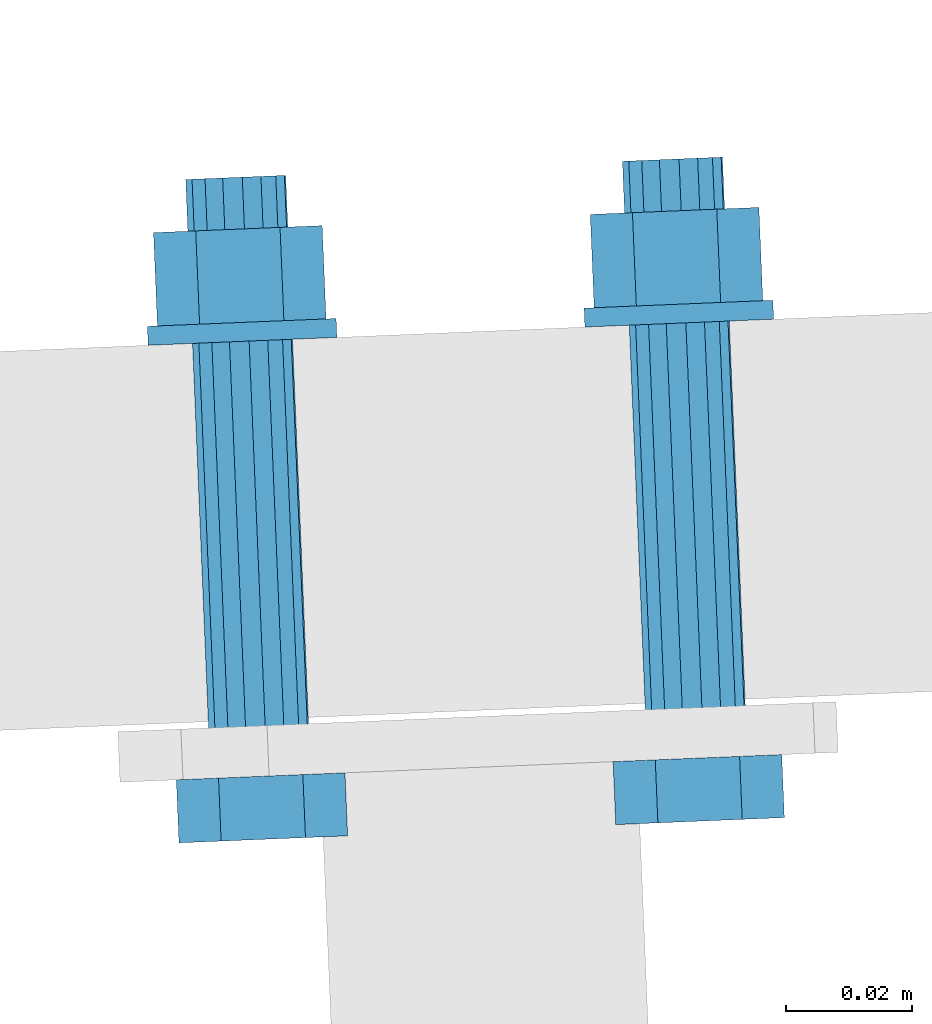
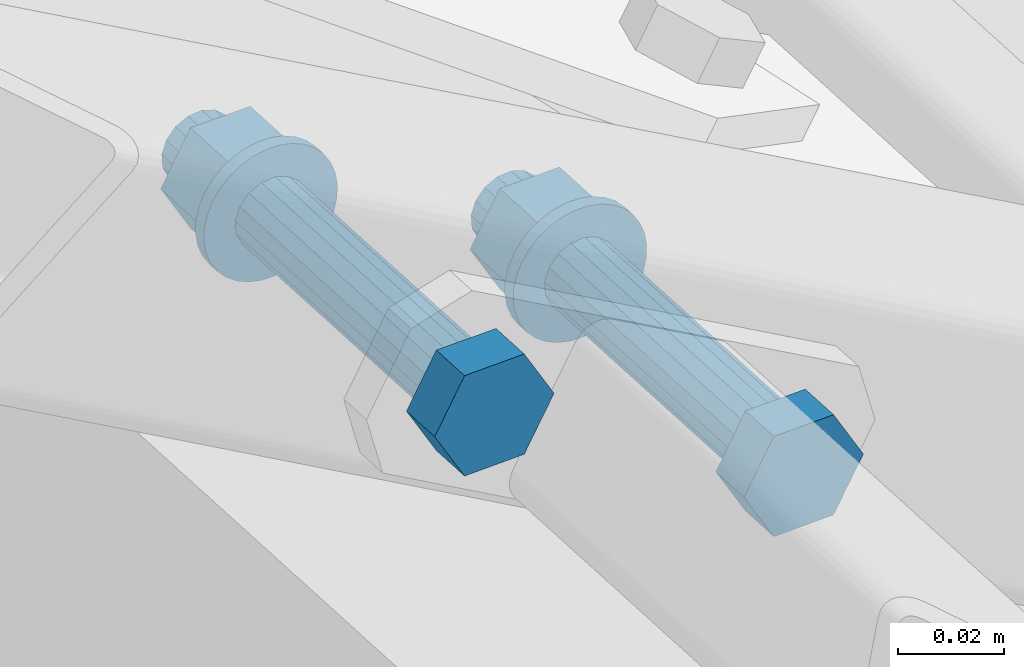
# One storey, part 111 of 288: 1 mechanical fastener.
"""IFC2X3 building model written with IfcOpenShell, lengths in millimetres."""

from ifc_helpers import new_model, entity, si_unit, converted_unit, origin_with_axes, place, context, project, spatial, faceted_brep, element, save


model = new_model("IFC2X3")

# Units and contexts
model_context = context("Model", 3, precision=1e-09, world=origin_with_axes())
ifc_project = project(units=[si_unit("LENGTHUNIT", "METRE", prefix="MILLI"), si_unit("AREAUNIT", "SQUARE_METRE"), si_unit("VOLUMEUNIT", "CUBIC_METRE"), converted_unit("PLANEANGLEUNIT", "DEGREE", entity("IfcPlaneAngleMeasure", 0.01745329), si_unit("PLANEANGLEUNIT", "RADIAN"), dimensions=[0, 0, 0, 0, 0, 0, 0])], contexts=[model_context])

# Site, building, storey
site_placement = place(None, origin_with_axes())
site = spatial("IfcSite", under=ifc_project, at=site_placement, Name="Remont ?wietlik?w nad MC w NCPP w Opolu", CompositionType="ELEMENT")
building_placement = place(site_placement, origin_with_axes())
building = spatial("IfcBuilding", under=site, at=building_placement, Name="Konstrukcja 1", CompositionType="ELEMENT")
storey_placement = place(building_placement, origin_with_axes())
storey = spatial("IfcBuildingStorey", under=building, at=storey_placement, Name="Default Storey", CompositionType="ELEMENT", Elevation=0.0)

# Mechanical fastener
mechanical_fastener_placement = place(None, origin_with_axes())
element("IfcMechanicalFastener", 1, at=mechanical_fastener_placement, inside=storey, ObjectType="-", NominalDiameter=16.0, NominalLength=95.0, context=model_context, shape_type="Brep", body=[
    faceted_brep([(1444.939910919, 3992.884096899, 257.007800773), (1444.523194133, 4002.875410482, 257.007799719), (1451.204889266, 4003.154088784, 245.424712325), (1451.621606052, 3993.162775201, 245.42471338), (1464.568271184, 4003.711447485, 245.42471709), (1464.984987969, 3993.720133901, 245.424718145), (1471.249957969, 4003.990127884, 257.007809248), (1471.666674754, 3993.9988143, 257.007810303), (1464.568262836, 4003.711449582, 268.590896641), (1464.984979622, 3993.720135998, 268.590897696), (1451.204880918, 4003.154090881, 268.590891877), (1451.621597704, 3993.162777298, 268.590892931)], [[[0, 1, 2, 3]], [[3, 2, 4, 5]], [[5, 4, 6, 7]], [[7, 6, 8, 9]], [[9, 8, 10, 11]], [[11, 10, 1, 0]], [[3, 5, 7, 9, 11, 0]], [[2, 1, 10, 8, 6, 4]]]),
    faceted_brep([(1514.161776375, 3995.771191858, 217.007825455), (1513.74505959, 4005.762505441, 217.007824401), (1520.426754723, 4006.041183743, 205.424737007), (1520.843471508, 3996.049870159, 205.424738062), (1533.79013664, 4006.598542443, 205.424741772), (1534.206853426, 3996.60722886, 205.424742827), (1540.471823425, 4006.877222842, 217.00783393), (1540.888540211, 3996.885909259, 217.007834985), (1533.790128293, 4006.59854454, 228.590921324), (1534.206845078, 3996.607230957, 228.590922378), (1520.426746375, 4006.04118584, 228.590916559), (1520.84346316, 3996.049872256, 228.590917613)], [[[0, 1, 2, 3]], [[3, 2, 4, 5]], [[5, 4, 6, 7]], [[7, 6, 8, 9]], [[9, 8, 10, 11]], [[11, 10, 1, 0]], [[3, 5, 7, 9, 11, 0]], [[2, 1, 10, 8, 6, 4]]]),
    faceted_brep([(1461.933407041, 4072.661775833, 253.007799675), (1464.808762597, 4003.721478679, 253.007806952), (1462.752439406, 4003.635713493, 250.660979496), (1459.87708385, 4072.576010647, 250.660972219), (1459.955332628, 4003.519051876, 249.280398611), (1457.079977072, 4072.45934903, 249.280391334), (1456.843276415, 4003.389254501, 249.07624522), (1453.967920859, 4072.329551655, 249.076237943), (1453.890053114, 4003.266081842, 250.079599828), (1451.014697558, 4072.206378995, 250.079592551), (1451.545264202, 4003.168285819, 252.13771079), (1448.669908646, 4072.108582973, 252.137703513), (1450.165882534, 4003.110754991, 254.93724937), (1447.290526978, 4072.051052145, 254.937242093), (1449.961906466, 4003.102247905, 258.052011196), (1447.08655091, 4072.042545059, 258.052003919), (1450.964389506, 4003.144059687, 261.007802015), (1448.08903395, 4072.084356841, 261.007794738), (1453.020712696, 4003.229824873, 263.354629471), (1450.14535714, 4072.170122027, 263.354622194), (1455.817819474, 4003.34648649, 264.735210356), (1452.942463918, 4072.286783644, 264.735203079), (1458.929875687, 4003.476283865, 264.939363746), (1456.054520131, 4072.416581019, 264.939356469), (1461.883098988, 4003.599456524, 263.936009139), (1459.007743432, 4072.539753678, 263.936001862), (1464.2278879, 4003.697252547, 261.877898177), (1461.352532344, 4072.637549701, 261.8778909), (1465.607269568, 4003.754783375, 259.078359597), (1462.731914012, 4072.695080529, 259.07835232), (1465.811245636, 4003.763290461, 255.963597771), (1462.93589008, 4072.703587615, 255.963590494)], [[[0, 1, 2, 3]], [[3, 2, 4, 5]], [[5, 4, 6, 7]], [[7, 6, 8, 9]], [[9, 8, 10, 11]], [[11, 10, 12, 13]], [[13, 12, 14, 15]], [[15, 14, 16, 17]], [[17, 16, 18, 19]], [[19, 18, 20, 21]], [[21, 20, 22, 23]], [[23, 22, 24, 25]], [[25, 24, 26, 27]], [[27, 26, 28, 29]], [[29, 28, 30, 31]], [[31, 30, 1, 0]], [[2, 1, 30, 28, 26, 24, 22, 20, 18, 16, 14, 12, 10, 8, 6, 4]], [[31, 0, 3, 5, 7, 9, 11, 13, 15, 17, 19, 21, 23, 25, 27, 29]]]),
    faceted_brep([(1531.155272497, 4075.548870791, 213.007824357), (1534.030628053, 4006.608573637, 213.007831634), (1531.974304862, 4006.522808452, 210.661004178), (1529.098949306, 4075.463105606, 210.660996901), (1529.177198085, 4006.406146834, 209.280423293), (1526.301842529, 4075.346443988, 209.280416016), (1526.065141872, 4006.276349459, 209.076269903), (1523.189786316, 4075.216646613, 209.076262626), (1523.111918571, 4006.1531768, 210.07962451), (1520.236563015, 4075.093473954, 210.079617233), (1520.767129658, 4006.055380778, 212.137735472), (1517.891774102, 4074.995677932, 212.137728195), (1519.387747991, 4005.99784995, 214.937274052), (1516.512392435, 4074.938147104, 214.937266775), (1519.183771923, 4005.989342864, 218.052035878), (1516.308416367, 4074.929640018, 218.052028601), (1520.186254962, 4006.031154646, 221.007826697), (1517.310899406, 4074.9714518, 221.00781942), (1522.242578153, 4006.116919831, 223.354654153), (1519.367222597, 4075.057216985, 223.354646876), (1525.03968493, 4006.233581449, 224.735235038), (1522.164329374, 4075.173878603, 224.735227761), (1528.151741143, 4006.363378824, 224.939388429), (1525.276385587, 4075.303675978, 224.939381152), (1531.104964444, 4006.486551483, 223.936033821), (1528.229608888, 4075.426848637, 223.936026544), (1533.449753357, 4006.584347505, 221.877922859), (1530.574397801, 4075.524644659, 221.877915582), (1534.829135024, 4006.641878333, 219.078384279), (1531.953779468, 4075.582175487, 219.078377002), (1535.033111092, 4006.65038542, 215.963622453), (1532.157755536, 4075.590682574, 215.963615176)], [[[0, 1, 2, 3]], [[3, 2, 4, 5]], [[5, 4, 6, 7]], [[7, 6, 8, 9]], [[9, 8, 10, 11]], [[11, 10, 12, 13]], [[13, 12, 14, 15]], [[15, 14, 16, 17]], [[17, 16, 18, 19]], [[19, 18, 20, 21]], [[21, 20, 22, 23]], [[23, 22, 24, 25]], [[25, 24, 26, 27]], [[27, 26, 28, 29]], [[29, 28, 30, 31]], [[31, 30, 1, 0]], [[2, 1, 30, 28, 26, 24, 22, 20, 18, 16, 14, 12, 10, 8, 6, 4]], [[31, 0, 3, 5, 7, 9, 11, 13, 15, 17, 19, 21, 23, 25, 27, 29]]]),
    faceted_brep([(1467.865305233, 4075.911790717, 249.507801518), (1467.990320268, 4072.914396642, 249.507801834), (1466.27902498, 4072.843021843, 247.117613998), (1466.154009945, 4075.840415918, 247.117613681), (1464.134714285, 4072.753586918, 245.107500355), (1464.00969925, 4075.750980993, 245.107500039), (1461.63979284, 4072.649528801, 243.554708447), (1461.514777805, 4075.646922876, 243.554708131), (1458.890139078, 4072.534846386, 242.518911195), (1458.765124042, 4075.532240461, 242.518910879), (1455.991420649, 4072.413946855, 242.039913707), (1455.866405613, 4075.41134093, 242.039913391), (1453.055033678, 4072.291476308, 242.136123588), (1452.930018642, 4075.288870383, 242.136123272), (1450.19382187, 4072.17214122, 242.803843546), (1450.068806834, 4075.169535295, 242.80384323), (1447.517739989, 4072.060527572, 244.017413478), (1447.392724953, 4075.057921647, 244.017413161), (1445.129628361, 4071.960924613, 245.730196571), (1445.004613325, 4074.958318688, 245.730196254), (1443.121260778, 4071.87716003, 247.876371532), (1442.996245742, 4074.874554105, 247.876371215), (1441.569817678, 4071.812452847, 250.37346206), (1441.444802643, 4074.809846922, 250.373461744), (1440.534920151, 4071.769289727, 253.125506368), (1440.409905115, 4074.766683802, 253.125506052), (1440.056338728, 4071.749329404, 256.026744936), (1439.931323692, 4074.746723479, 256.026744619), (1440.152465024, 4071.753338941, 258.965684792), (1440.027449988, 4074.750733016, 258.965684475), (1440.81960496, 4071.781164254, 261.829384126), (1440.694589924, 4074.778558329, 261.829383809), (1442.032120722, 4071.831736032, 264.507792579), (1441.907105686, 4074.829130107, 264.507792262), (1443.74341601, 4071.90311083, 266.897980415), (1443.618400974, 4074.900504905, 266.897980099), (1445.887726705, 4071.992545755, 268.908094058), (1445.762711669, 4074.98993983, 268.908093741), (1448.38264815, 4072.096603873, 270.460885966), (1448.257633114, 4075.093997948, 270.46088565), (1451.132301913, 4072.211286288, 271.496683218), (1451.007286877, 4075.208680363, 271.496682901), (1454.031020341, 4072.332185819, 271.975680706), (1453.906005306, 4075.329579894, 271.975680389), (1456.967407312, 4072.454656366, 271.879470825), (1456.842392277, 4075.452050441, 271.879470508), (1459.828619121, 4072.573991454, 271.211750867), (1459.703604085, 4075.571385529, 271.21175055), (1462.504701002, 4072.685605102, 269.998180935), (1462.379685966, 4075.682999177, 269.998180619), (1464.892812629, 4072.785208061, 268.285397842), (1464.767797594, 4075.782602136, 268.285397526), (1466.901180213, 4072.868972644, 266.139222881), (1466.776165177, 4075.866366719, 266.139222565), (1468.452623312, 4072.933679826, 263.642132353), (1468.327608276, 4075.931073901, 263.642132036), (1469.487520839, 4072.976842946, 260.890088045), (1469.362505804, 4075.974237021, 260.890087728), (1469.966102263, 4072.99680327, 257.988849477), (1469.841087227, 4075.994197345, 257.988849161), (1469.869975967, 4072.992793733, 255.049909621), (1469.744960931, 4075.990187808, 255.049909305), (1469.202836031, 4072.96496842, 252.186210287), (1469.077820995, 4075.962362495, 252.186209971)], [[[0, 1, 2, 3]], [[3, 2, 4, 5]], [[5, 4, 6, 7]], [[7, 6, 8, 9]], [[9, 8, 10, 11]], [[11, 10, 12, 13]], [[13, 12, 14, 15]], [[15, 14, 16, 17]], [[17, 16, 18, 19]], [[19, 18, 20, 21]], [[21, 20, 22, 23]], [[23, 22, 24, 25]], [[25, 24, 26, 27]], [[27, 26, 28, 29]], [[29, 28, 30, 31]], [[31, 30, 32, 33]], [[33, 32, 34, 35]], [[35, 34, 36, 37]], [[37, 36, 38, 39]], [[39, 38, 40, 41]], [[41, 40, 42, 43]], [[43, 42, 44, 45]], [[45, 44, 46, 47]], [[47, 46, 48, 49]], [[49, 48, 50, 51]], [[51, 50, 52, 53]], [[53, 52, 54, 55]], [[55, 54, 56, 57]], [[57, 56, 58, 59]], [[59, 58, 60, 61]], [[61, 60, 62, 63]], [[63, 62, 1, 0]], [[2, 1, 62, 60, 58, 56, 54, 52, 50, 48, 46, 44, 42, 40, 38, 36, 34, 32, 30, 28, 26, 24, 22, 20, 18, 16, 14, 12, 10, 8, 6, 4]], [[63, 0, 3, 5, 7, 9, 11, 13, 15, 17, 19, 21, 23, 25, 27, 29, 31, 33, 35, 37, 39, 41, 43, 45, 47, 49, 51, 53, 55, 57, 59, 61]]]),
    faceted_brep([(1537.087170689, 4078.798885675, 209.5078262), (1537.212185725, 4075.8014916, 209.507826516), (1535.500890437, 4075.730116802, 207.11763868), (1535.375875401, 4078.727510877, 207.117638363), (1533.356579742, 4075.640681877, 205.107525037), (1533.231564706, 4078.638075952, 205.107524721), (1530.861658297, 4075.53662376, 203.554733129), (1530.736643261, 4078.534017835, 203.554732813), (1528.112004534, 4075.421941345, 202.518935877), (1527.986989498, 4078.41933542, 202.518935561), (1525.213286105, 4075.301041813, 202.03993839), (1525.08827107, 4078.298435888, 202.039938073), (1522.276899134, 4075.178571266, 202.13614827), (1522.151884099, 4078.175965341, 202.136147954), (1519.415687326, 4075.059236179, 202.803868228), (1519.29067229, 4078.056630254, 202.803867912), (1516.739605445, 4074.94762253, 204.01743816), (1516.614590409, 4077.945016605, 204.017437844), (1514.351493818, 4074.848019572, 205.730221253), (1514.226478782, 4077.845413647, 205.730220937), (1512.343126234, 4074.764254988, 207.876396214), (1512.218111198, 4077.761649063, 207.876395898), (1510.791683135, 4074.699547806, 210.373486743), (1510.666668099, 4077.696941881, 210.373486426), (1509.756785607, 4074.656384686, 213.12553105), (1509.631770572, 4077.653778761, 213.125530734), (1509.278204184, 4074.636424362, 216.026769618), (1509.153189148, 4077.633818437, 216.026769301), (1509.37433048, 4074.640433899, 218.965709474), (1509.249315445, 4077.637827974, 218.965709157), (1510.041470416, 4074.668259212, 221.829408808), (1509.916455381, 4077.665653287, 221.829408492), (1511.253986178, 4074.718830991, 224.507817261), (1511.128971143, 4077.716225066, 224.507816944), (1512.965281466, 4074.790205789, 226.898005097), (1512.840266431, 4077.787599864, 226.898004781), (1515.109592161, 4074.879640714, 228.90811874), (1514.984577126, 4077.877034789, 228.908118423), (1517.604513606, 4074.983698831, 230.460910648), (1517.479498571, 4077.981092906, 230.460910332), (1520.354167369, 4075.098381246, 231.4967079), (1520.229152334, 4078.095775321, 231.496707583), (1523.252885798, 4075.219280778, 231.975705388), (1523.127870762, 4078.216674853, 231.975705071), (1526.189272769, 4075.341751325, 231.879495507), (1526.064257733, 4078.3391454, 231.87949519), (1529.050484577, 4075.461086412, 231.211775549), (1528.925469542, 4078.458480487, 231.211775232), (1531.726566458, 4075.572700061, 229.998205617), (1531.601551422, 4078.570094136, 229.998205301), (1534.114678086, 4075.672303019, 228.285422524), (1533.98966305, 4078.669697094, 228.285422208), (1536.123045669, 4075.756067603, 226.139247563), (1535.998030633, 4078.753461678, 226.139247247), (1537.674488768, 4075.820774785, 223.642157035), (1537.549473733, 4078.81816886, 223.642156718), (1538.709386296, 4075.863937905, 220.890112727), (1538.58437126, 4078.86133198, 220.89011241), (1539.187967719, 4075.883898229, 217.988874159), (1539.062952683, 4078.881292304, 217.988873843), (1539.091841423, 4075.879888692, 215.049934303), (1538.966826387, 4078.877282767, 215.049933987), (1538.424701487, 4075.852063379, 212.186234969), (1538.299686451, 4078.849457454, 212.186234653)], [[[0, 1, 2, 3]], [[3, 2, 4, 5]], [[5, 4, 6, 7]], [[7, 6, 8, 9]], [[9, 8, 10, 11]], [[11, 10, 12, 13]], [[13, 12, 14, 15]], [[15, 14, 16, 17]], [[17, 16, 18, 19]], [[19, 18, 20, 21]], [[21, 20, 22, 23]], [[23, 22, 24, 25]], [[25, 24, 26, 27]], [[27, 26, 28, 29]], [[29, 28, 30, 31]], [[31, 30, 32, 33]], [[33, 32, 34, 35]], [[35, 34, 36, 37]], [[37, 36, 38, 39]], [[39, 38, 40, 41]], [[41, 40, 42, 43]], [[43, 42, 44, 45]], [[45, 44, 46, 47]], [[47, 46, 48, 49]], [[49, 48, 50, 51]], [[51, 50, 52, 53]], [[53, 52, 54, 55]], [[55, 54, 56, 57]], [[57, 56, 58, 59]], [[59, 58, 60, 61]], [[61, 60, 62, 63]], [[63, 62, 1, 0]], [[2, 1, 62, 60, 58, 56, 54, 52, 50, 48, 46, 44, 42, 40, 38, 36, 34, 32, 30, 28, 26, 24, 22, 20, 18, 16, 14, 12, 10, 8, 6, 4]], [[63, 0, 3, 5, 7, 9, 11, 13, 15, 17, 19, 21, 23, 25, 27, 29, 31, 33, 35, 37, 39, 41, 43, 45, 47, 49, 51, 53, 55, 57, 59, 61]]]),
    faceted_brep([(1441.522823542, 4074.813101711, 257.007792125), (1440.906082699, 4089.600245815, 257.007790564), (1447.587777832, 4089.878924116, 245.424703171), (1448.204518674, 4075.091780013, 245.424704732), (1460.95115975, 4090.436282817, 245.424707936), (1461.567900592, 4075.649138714, 245.424709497), (1467.632846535, 4090.714963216, 257.007800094), (1468.249587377, 4075.927819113, 257.007801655), (1460.951151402, 4090.436284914, 268.590887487), (1461.567892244, 4075.649140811, 268.590889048), (1447.587769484, 4089.878926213, 268.590882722), (1448.204510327, 4075.09178211, 268.590884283)], [[[0, 1, 2, 3]], [[3, 2, 4, 5]], [[5, 4, 6, 7]], [[7, 6, 8, 9]], [[9, 8, 10, 11]], [[11, 10, 1, 0]], [[3, 5, 7, 9, 11, 0]], [[2, 1, 10, 8, 6, 4]]]),
    faceted_brep([(1510.744688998, 4077.70019667, 217.007816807), (1510.127948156, 4092.487340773, 217.007815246), (1516.809643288, 4092.766019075, 205.424727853), (1517.426384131, 4077.978874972, 205.424729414), (1530.173025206, 4093.323377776, 205.424732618), (1530.789766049, 4078.536233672, 205.424734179), (1536.854711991, 4093.602058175, 217.007824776), (1537.471452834, 4078.814914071, 217.007826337), (1530.173016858, 4093.323379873, 228.590912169), (1530.789757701, 4078.536235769, 228.59091373), (1516.809634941, 4092.766021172, 228.590907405), (1517.426375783, 4077.978877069, 228.590908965)], [[[0, 1, 2, 3]], [[3, 2, 4, 5]], [[5, 4, 6, 7]], [[7, 6, 8, 9]], [[9, 8, 10, 11]], [[11, 10, 1, 0]], [[3, 5, 7, 9, 11, 0]], [[2, 1, 10, 8, 6, 4]]]),
    faceted_brep([(1460.849953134, 4098.638957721, 253.007796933), (1461.191651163, 4090.446314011, 253.007797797), (1459.135327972, 4090.360548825, 250.660970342), (1458.793629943, 4098.553192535, 250.660969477), (1456.338221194, 4090.243887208, 249.280389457), (1455.996523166, 4098.436530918, 249.280388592), (1453.226164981, 4090.114089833, 249.076236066), (1452.884466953, 4098.306733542, 249.076235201), (1450.27294168, 4089.990917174, 250.079590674), (1449.931243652, 4098.183560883, 250.079589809), (1447.928152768, 4089.893121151, 252.137701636), (1447.586454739, 4098.085764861, 252.137700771), (1446.5487711, 4089.835590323, 254.937240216), (1446.207073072, 4098.028234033, 254.937239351), (1446.344795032, 4089.827083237, 258.052002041), (1446.003097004, 4098.019726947, 258.052001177), (1447.347278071, 4089.868895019, 261.007792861), (1447.005580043, 4098.061538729, 261.007791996), (1449.403601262, 4089.954660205, 263.354620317), (1449.061903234, 4098.147303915, 263.354619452), (1452.20070804, 4090.071321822, 264.735201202), (1451.859010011, 4098.263965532, 264.735200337), (1455.312764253, 4090.201119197, 264.939354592), (1454.971066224, 4098.393762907, 264.939353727), (1458.265987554, 4090.324291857, 263.935999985), (1457.924289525, 4098.516935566, 263.93599912), (1460.610776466, 4090.422087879, 261.877889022), (1460.269078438, 4098.614731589, 261.877888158), (1461.990158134, 4090.479618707, 259.078350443), (1461.648460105, 4098.672262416, 259.078349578), (1462.194134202, 4090.488125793, 255.963588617), (1461.852436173, 4098.680769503, 255.963587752)], [[[0, 1, 2, 3]], [[3, 2, 4, 5]], [[5, 4, 6, 7]], [[7, 6, 8, 9]], [[9, 8, 10, 11]], [[11, 10, 12, 13]], [[13, 12, 14, 15]], [[15, 14, 16, 17]], [[17, 16, 18, 19]], [[19, 18, 20, 21]], [[21, 20, 22, 23]], [[23, 22, 24, 25]], [[25, 24, 26, 27]], [[27, 26, 28, 29]], [[29, 28, 30, 31]], [[31, 30, 1, 0]], [[2, 1, 30, 28, 26, 24, 22, 20, 18, 16, 14, 12, 10, 8, 6, 4]], [[31, 0, 3, 5, 7, 9, 11, 13, 15, 17, 19, 21, 23, 25, 27, 29]]]),
    faceted_brep([(1530.071818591, 4101.526052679, 213.007821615), (1530.413516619, 4093.33340897, 213.00782248), (1528.357193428, 4093.247643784, 210.660995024), (1528.0154954, 4101.440287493, 210.660994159), (1525.560086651, 4093.130982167, 209.280414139), (1525.218388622, 4101.323625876, 209.280413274), (1522.448030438, 4093.001184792, 209.076260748), (1522.106332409, 4101.193828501, 209.076259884), (1519.494807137, 4092.878012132, 210.079615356), (1519.153109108, 4101.070655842, 210.079614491), (1517.150018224, 4092.78021611, 212.137726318), (1516.808320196, 4100.972859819, 212.137725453), (1515.770636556, 4092.722685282, 214.937264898), (1515.428938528, 4100.915328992, 214.937264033), (1515.566660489, 4092.714178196, 218.052026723), (1515.22496246, 4100.906821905, 218.052025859), (1516.569143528, 4092.755989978, 221.007817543), (1516.227445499, 4100.948633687, 221.007816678), (1518.625466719, 4092.841755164, 223.354644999), (1518.28376869, 4101.034398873, 223.354644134), (1521.422573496, 4092.958416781, 224.735225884), (1521.080875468, 4101.15106049, 224.735225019), (1524.534629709, 4093.088214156, 224.939379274), (1524.192931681, 4101.280857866, 224.93937841), (1527.48785301, 4093.211386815, 223.936024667), (1527.146154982, 4101.404030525, 223.936023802), (1529.832641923, 4093.309182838, 221.877913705), (1529.490943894, 4101.501826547, 221.87791284), (1531.21202359, 4093.366713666, 219.078375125), (1530.870325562, 4101.559357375, 219.07837426), (1531.415999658, 4093.375220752, 215.963613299), (1531.07430163, 4101.567864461, 215.963612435)], [[[0, 1, 2, 3]], [[3, 2, 4, 5]], [[5, 4, 6, 7]], [[7, 6, 8, 9]], [[9, 8, 10, 11]], [[11, 10, 12, 13]], [[13, 12, 14, 15]], [[15, 14, 16, 17]], [[17, 16, 18, 19]], [[19, 18, 20, 21]], [[21, 20, 22, 23]], [[23, 22, 24, 25]], [[25, 24, 26, 27]], [[27, 26, 28, 29]], [[29, 28, 30, 31]], [[31, 30, 1, 0]], [[2, 1, 30, 28, 26, 24, 22, 20, 18, 16, 14, 12, 10, 8, 6, 4]], [[31, 0, 3, 5, 7, 9, 11, 13, 15, 17, 19, 21, 23, 25, 27, 29]]]),
])

save(model, "model.ifc")
